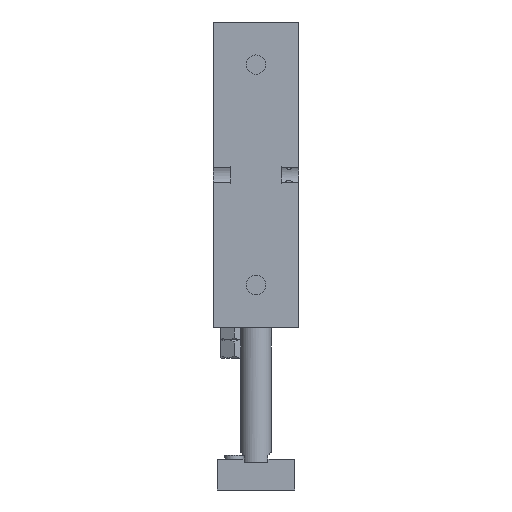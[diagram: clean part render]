
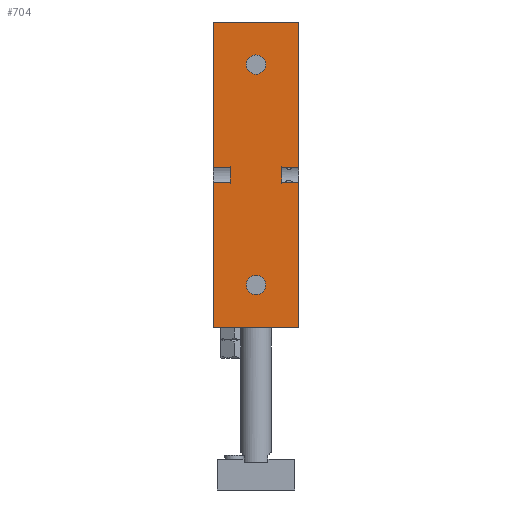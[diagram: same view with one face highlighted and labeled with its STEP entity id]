
A CAD part, front view. The second image highlights one B-rep face of the part: STEP entity #704.
In plain terms, the highlighted planar face has unit normal (0, -1, 0).
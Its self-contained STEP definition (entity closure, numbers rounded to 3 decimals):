
#195=CARTESIAN_POINT('',(2.5,-27.0,110.0));
#196=VERTEX_POINT('',#195);
#197=CARTESIAN_POINT('',(0.0,-27.0,110.0));
#198=DIRECTION('',(0.0,1.0,0.0));
#199=DIRECTION('',(-1.0,0.0,0.0));
#200=AXIS2_PLACEMENT_3D('',#197,#198,#199);
#201=CIRCLE('',#200,2.5);
#202=EDGE_CURVE('',#196,#196,#201,.T.);
#232=CARTESIAN_POINT('',(2.5,-27.0,53.));
#233=VERTEX_POINT('',#232);
#234=CARTESIAN_POINT('',(0.0,-27.0,53.));
#235=DIRECTION('',(0.0,1.0,0.0));
#236=DIRECTION('',(-1.0,0.0,0.0));
#237=AXIS2_PLACEMENT_3D('',#234,#235,#236);
#238=CIRCLE('',#237,2.5);
#239=EDGE_CURVE('',#233,#233,#238,.T.);
#485=CARTESIAN_POINT('',(-6.6,-27.0,83.436));
#486=VERTEX_POINT('',#485);
#487=CARTESIAN_POINT('',(-6.6,-27.0,79.564));
#488=VERTEX_POINT('',#487);
#489=CARTESIAN_POINT('',(-6.6,-27.0,83.436));
#490=DIRECTION('',(0.0,0.0,-1.0));
#491=VECTOR('',#490,3.873);
#492=LINE('',#489,#491);
#493=EDGE_CURVE('',#486,#488,#492,.T.);
#542=CARTESIAN_POINT('',(-11.,-27.0,83.436));
#543=VERTEX_POINT('',#542);
#544=CARTESIAN_POINT('',(-11.,-27.0,83.436));
#545=DIRECTION('',(1.0,0.0,0.0));
#546=VECTOR('',#545,4.4);
#547=LINE('',#544,#546);
#548=EDGE_CURVE('',#543,#486,#547,.T.);
#550=CARTESIAN_POINT('',(-11.,-27.0,79.564));
#551=VERTEX_POINT('',#550);
#559=CARTESIAN_POINT('',(-6.6,-27.0,79.564));
#560=DIRECTION('',(-1.0,0.0,0.0));
#561=VECTOR('',#560,4.4);
#562=LINE('',#559,#561);
#563=EDGE_CURVE('',#488,#551,#562,.T.);
#618=CARTESIAN_POINT('',(11.,-27.0,42.0));
#619=DIRECTION('',(0.0,-1.0,0.0));
#620=DIRECTION('',(0.0,0.0,-1.0));
#621=AXIS2_PLACEMENT_3D('',#618,#619,#620);
#622=PLANE('',#621);
#623=ORIENTED_EDGE('',*,*,#548,.T.);
#624=ORIENTED_EDGE('',*,*,#493,.T.);
#625=ORIENTED_EDGE('',*,*,#563,.T.);
#626=CARTESIAN_POINT('',(-11.,-27.0,42.0));
#627=VERTEX_POINT('',#626);
#628=CARTESIAN_POINT('',(-11.,-27.0,42.0));
#629=DIRECTION('',(0.0,0.0,1.0));
#630=VECTOR('',#629,37.564);
#631=LINE('',#628,#630);
#632=EDGE_CURVE('',#627,#551,#631,.T.);
#633=ORIENTED_EDGE('',*,*,#632,.F.);
#634=CARTESIAN_POINT('',(11.,-27.0,42.0));
#635=VERTEX_POINT('',#634);
#636=CARTESIAN_POINT('',(11.,-27.0,42.0));
#637=DIRECTION('',(-1.0,0.0,0.0));
#638=VECTOR('',#637,22.);
#639=LINE('',#636,#638);
#640=EDGE_CURVE('',#635,#627,#639,.T.);
#641=ORIENTED_EDGE('',*,*,#640,.F.);
#642=CARTESIAN_POINT('',(11.,-27.0,79.564));
#643=VERTEX_POINT('',#642);
#644=CARTESIAN_POINT('',(11.,-27.0,42.0));
#645=DIRECTION('',(0.0,0.0,1.0));
#646=VECTOR('',#645,37.564);
#647=LINE('',#644,#646);
#648=EDGE_CURVE('',#635,#643,#647,.T.);
#649=ORIENTED_EDGE('',*,*,#648,.T.);
#650=CARTESIAN_POINT('',(6.6,-27.0,79.564));
#651=VERTEX_POINT('',#650);
#652=CARTESIAN_POINT('',(11.,-27.0,79.564));
#653=DIRECTION('',(-1.0,0.0,0.0));
#654=VECTOR('',#653,4.4);
#655=LINE('',#652,#654);
#656=EDGE_CURVE('',#643,#651,#655,.T.);
#657=ORIENTED_EDGE('',*,*,#656,.T.);
#658=CARTESIAN_POINT('',(6.6,-27.0,83.436));
#659=VERTEX_POINT('',#658);
#660=CARTESIAN_POINT('',(6.6,-27.0,79.564));
#661=DIRECTION('',(0.0,0.0,1.0));
#662=VECTOR('',#661,3.873);
#663=LINE('',#660,#662);
#664=EDGE_CURVE('',#651,#659,#663,.T.);
#665=ORIENTED_EDGE('',*,*,#664,.T.);
#666=CARTESIAN_POINT('',(11.,-27.0,83.436));
#667=VERTEX_POINT('',#666);
#668=CARTESIAN_POINT('',(6.6,-27.0,83.436));
#669=DIRECTION('',(1.0,0.0,0.0));
#670=VECTOR('',#669,4.4);
#671=LINE('',#668,#670);
#672=EDGE_CURVE('',#659,#667,#671,.T.);
#673=ORIENTED_EDGE('',*,*,#672,.T.);
#674=CARTESIAN_POINT('',(11.,-27.0,121.));
#675=VERTEX_POINT('',#674);
#676=CARTESIAN_POINT('',(11.,-27.0,83.436));
#677=DIRECTION('',(0.0,0.0,1.0));
#678=VECTOR('',#677,37.564);
#679=LINE('',#676,#678);
#680=EDGE_CURVE('',#667,#675,#679,.T.);
#681=ORIENTED_EDGE('',*,*,#680,.T.);
#682=CARTESIAN_POINT('',(-11.,-27.0,121.));
#683=VERTEX_POINT('',#682);
#684=CARTESIAN_POINT('',(11.,-27.0,121.));
#685=DIRECTION('',(-1.0,0.0,0.0));
#686=VECTOR('',#685,22.);
#687=LINE('',#684,#686);
#688=EDGE_CURVE('',#675,#683,#687,.T.);
#689=ORIENTED_EDGE('',*,*,#688,.T.);
#690=CARTESIAN_POINT('',(-11.,-27.0,83.436));
#691=DIRECTION('',(0.0,0.0,1.0));
#692=VECTOR('',#691,37.564);
#693=LINE('',#690,#692);
#694=EDGE_CURVE('',#543,#683,#693,.T.);
#695=ORIENTED_EDGE('',*,*,#694,.F.);
#696=EDGE_LOOP('',(#623,#624,#625,#633,#641,#649,#657,#665,#673,#681,#689,#695));
#697=FACE_OUTER_BOUND('',#696,.T.);
#698=ORIENTED_EDGE('',*,*,#202,.T.);
#699=EDGE_LOOP('',(#698));
#700=FACE_BOUND('',#699,.T.);
#701=ORIENTED_EDGE('',*,*,#239,.T.);
#702=EDGE_LOOP('',(#701));
#703=FACE_BOUND('',#702,.T.);
#704=ADVANCED_FACE('',(#697,#700,#703),#622,.T.);
